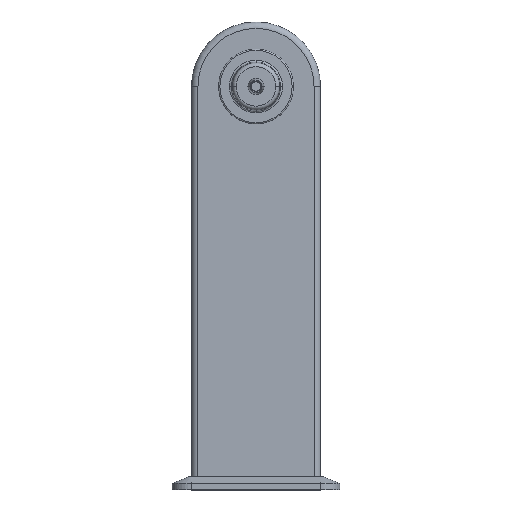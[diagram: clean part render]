
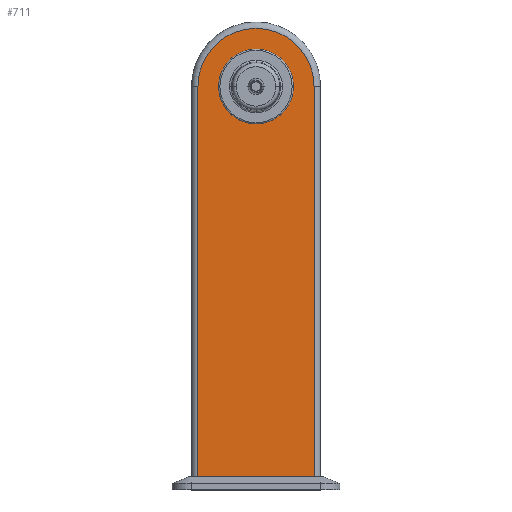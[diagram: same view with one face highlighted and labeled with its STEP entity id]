
A CAD part, top view. The second image highlights one B-rep face of the part: STEP entity #711.
In plain terms, the highlighted planar face has unit normal (0, 0, 1).
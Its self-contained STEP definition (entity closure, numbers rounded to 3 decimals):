
#92 = VECTOR ( 'NONE', #1144, 1000. ) ;
#108 = DIRECTION ( 'NONE',  ( 0., 0., 1. ) ) ;
#190 = CIRCLE ( 'NONE', #2174, 58. ) ;
#195 = VECTOR ( 'NONE', #231, 1000. ) ;
#205 = EDGE_CURVE ( 'NONE', #2043, #1091, #1806, .T. ) ;
#218 = ORIENTED_EDGE ( 'NONE', *, *, #1689, .T. ) ;
#231 = DIRECTION ( 'NONE',  ( 1., 0., 0. ) ) ;
#236 = AXIS2_PLACEMENT_3D ( 'NONE', #1861, #772, #2039 ) ;
#395 = EDGE_LOOP ( 'NONE', ( #218, #1586, #1455, #745 ) ) ;
#396 = EDGE_CURVE ( 'NONE', #671, #2100, #729, .T. ) ;
#616 = CARTESIAN_POINT ( 'NONE',  ( 0., 0., 31.25 ) ) ;
#632 = LINE ( 'NONE', #2393, #92 ) ;
#638 = CARTESIAN_POINT ( 'NONE',  ( -90., -625., 31.25 ) ) ;
#671 = VERTEX_POINT ( 'NONE', #744 ) ;
#676 = AXIS2_PLACEMENT_3D ( 'NONE', #760, #1137, #2403 ) ;
#711 = ADVANCED_FACE ( 'NONE', ( #1554, #1191 ), #2389, .T. ) ;
#729 = LINE ( 'NONE', #2080, #195 ) ;
#734 = CARTESIAN_POINT ( 'NONE',  ( 90., 0., 31.25 ) ) ;
#745 = ORIENTED_EDGE ( 'NONE', *, *, #205, .T. ) ;
#744 = CARTESIAN_POINT ( 'NONE',  ( -90., -605., 31.25 ) ) ;
#747 = AXIS2_PLACEMENT_3D ( 'NONE', #616, #1899, #810 ) ;
#760 = CARTESIAN_POINT ( 'NONE',  ( 0., 0., 31.25 ) ) ;
#772 = DIRECTION ( 'NONE',  ( 0., 0., 1. ) ) ;
#810 = DIRECTION ( 'NONE',  ( 1., 0., 0. ) ) ;
#1056 = CARTESIAN_POINT ( 'NONE',  ( -90., 0., 31.25 ) ) ;
#1080 = ORIENTED_EDGE ( 'NONE', *, *, #1631, .F. ) ;
#1091 = VERTEX_POINT ( 'NONE', #1056 ) ;
#1110 = VERTEX_POINT ( 'NONE', #1788 ) ;
#1137 = DIRECTION ( 'NONE',  ( 0., 0., 1. ) ) ;
#1144 = DIRECTION ( 'NONE',  ( 0., 1., 0. ) ) ;
#1191 = FACE_BOUND ( 'NONE', #1231, .T. ) ;
#1200 = ORIENTED_EDGE ( 'NONE', *, *, #1364, .F. ) ;
#1231 = EDGE_LOOP ( 'NONE', ( #1080, #1200 ) ) ;
#1268 = CARTESIAN_POINT ( 'NONE',  ( 0., 0., 31.25 ) ) ;
#1331 = CIRCLE ( 'NONE', #747, 58. ) ;
#1364 = EDGE_CURVE ( 'NONE', #2363, #1110, #190, .T. ) ;
#1442 = DIRECTION ( 'NONE',  ( 1., 0., 0. ) ) ;
#1455 = ORIENTED_EDGE ( 'NONE', *, *, #1517, .T. ) ;
#1517 = EDGE_CURVE ( 'NONE', #2100, #2043, #632, .T. ) ;
#1552 = DIRECTION ( 'NONE',  ( 0., -1., 0. ) ) ;
#1554 = FACE_OUTER_BOUND ( 'NONE', #395, .T. ) ;
#1586 = ORIENTED_EDGE ( 'NONE', *, *, #396, .T. ) ;
#1631 = EDGE_CURVE ( 'NONE', #1110, #2363, #1331, .T. ) ;
#1689 = EDGE_CURVE ( 'NONE', #1091, #671, #2051, .T. ) ;
#1776 = CARTESIAN_POINT ( 'NONE',  ( -58., 0., 31.25 ) ) ;
#1788 = CARTESIAN_POINT ( 'NONE',  ( 58., 0., 31.25 ) ) ;
#1806 = CIRCLE ( 'NONE', #236, 90. ) ;
#1861 = CARTESIAN_POINT ( 'NONE',  ( 0., 0., 31.25 ) ) ;
#1899 = DIRECTION ( 'NONE',  ( 0., 0., 1. ) ) ;
#2039 = DIRECTION ( 'NONE',  ( 1., 0., 0. ) ) ;
#2043 = VERTEX_POINT ( 'NONE', #734 ) ;
#2051 = LINE ( 'NONE', #638, #2107 ) ;
#2080 = CARTESIAN_POINT ( 'NONE',  ( 0., -605., 31.25 ) ) ;
#2100 = VERTEX_POINT ( 'NONE', #2209 ) ;
#2107 = VECTOR ( 'NONE', #1552, 1000. ) ;
#2174 = AXIS2_PLACEMENT_3D ( 'NONE', #1268, #108, #1442 ) ;
#2209 = CARTESIAN_POINT ( 'NONE',  ( 90., -605., 31.25 ) ) ;
#2363 = VERTEX_POINT ( 'NONE', #1776 ) ;
#2389 = PLANE ( 'NONE',  #676 ) ;
#2393 = CARTESIAN_POINT ( 'NONE',  ( 90., 0., 31.25 ) ) ;
#2403 = DIRECTION ( 'NONE',  ( 1., 0., 0. ) ) ;
